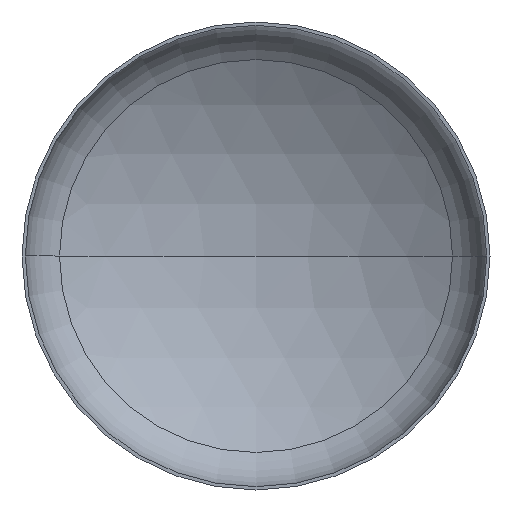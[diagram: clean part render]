
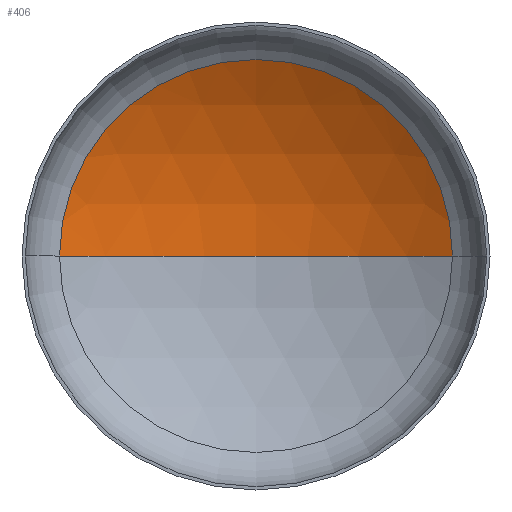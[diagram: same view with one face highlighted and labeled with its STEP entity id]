
A CAD part, front view. The second image highlights one B-rep face of the part: STEP entity #406.
In plain terms, the highlighted spherical face has radius 5200 mm.
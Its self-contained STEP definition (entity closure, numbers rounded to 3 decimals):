
#16 = VERTEX_POINT ( 'NONE', #161 ) ;
#50 = AXIS2_PLACEMENT_3D ( 'NONE', #202, #175, #389 ) ;
#51 = CARTESIAN_POINT ( 'NONE',  ( -2728.762, 991.249, 0. ) ) ;
#52 = CARTESIAN_POINT ( 'NONE',  ( 0., 991.249, 0. ) ) ;
#58 = ORIENTED_EDGE ( 'NONE', *, *, #211, .T. ) ;
#61 = CARTESIAN_POINT ( 'NONE',  ( 0., -3435.246, 0. ) ) ;
#72 = ORIENTED_EDGE ( 'NONE', *, *, #216, .T. ) ;
#78 = VERTEX_POINT ( 'NONE', #149 ) ;
#108 = AXIS2_PLACEMENT_3D ( 'NONE', #61, #160, #310 ) ;
#118 = DIRECTION ( 'NONE',  ( 0., 0., -1. ) ) ;
#122 = CARTESIAN_POINT ( 'NONE',  ( 0., -3435.246, 0. ) ) ;
#129 = AXIS2_PLACEMENT_3D ( 'NONE', #122, #118, #188 ) ;
#132 = AXIS2_PLACEMENT_3D ( 'NONE', #52, #387, #320 ) ;
#137 = VERTEX_POINT ( 'NONE', #51 ) ;
#138 = ORIENTED_EDGE ( 'NONE', *, *, #221, .F. ) ;
#149 = CARTESIAN_POINT ( 'NONE',  ( 2728.762, 991.249, 0. ) ) ;
#160 = DIRECTION ( 'NONE',  ( 0., 0., 1. ) ) ;
#161 = CARTESIAN_POINT ( 'NONE',  ( 0., 1764.754, 0. ) ) ;
#175 = DIRECTION ( 'NONE',  ( 0., 0., -1. ) ) ;
#180 = EDGE_LOOP ( 'NONE', ( #138, #72, #58 ) ) ;
#187 = SPHERICAL_SURFACE ( 'NONE', #50, 5200. ) ;
#188 = DIRECTION ( 'NONE',  ( -1., 0., 0. ) ) ;
#202 = CARTESIAN_POINT ( 'NONE',  ( 0., -3435.246, 0. ) ) ;
#211 = EDGE_CURVE ( 'NONE', #78, #137, #370, .T. ) ;
#216 = EDGE_CURVE ( 'NONE', #16, #78, #315, .T. ) ;
#221 = EDGE_CURVE ( 'NONE', #16, #137, #259, .T. ) ;
#259 = CIRCLE ( 'NONE', #108, 5200. ) ;
#310 = DIRECTION ( 'NONE',  ( 1., 0., 0. ) ) ;
#315 = CIRCLE ( 'NONE', #129, 5200. ) ;
#320 = DIRECTION ( 'NONE',  ( 1., 0., 0. ) ) ;
#325 = FACE_OUTER_BOUND ( 'NONE', #180, .T. ) ;
#370 = CIRCLE ( 'NONE', #132, 2728.762 ) ;
#387 = DIRECTION ( 'NONE',  ( 0., -1., 0. ) ) ;
#389 = DIRECTION ( 'NONE',  ( -1., 0., 0. ) ) ;
#406 = ADVANCED_FACE ( 'NONE', ( #325 ), #187, .F. ) ;
